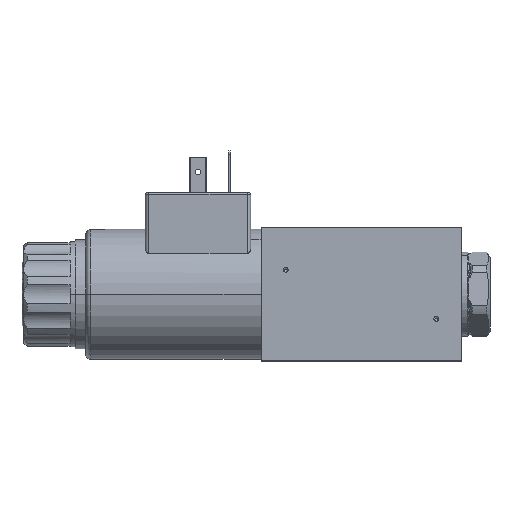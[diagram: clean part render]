
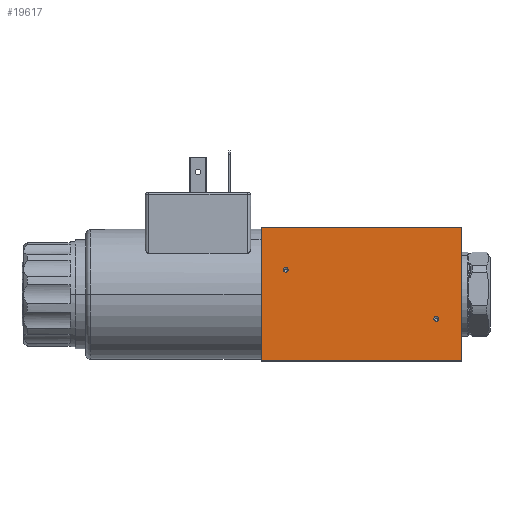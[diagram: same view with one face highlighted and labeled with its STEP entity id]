
A CAD part, top view. The second image highlights one B-rep face of the part: STEP entity #19617.
In plain terms, the highlighted planar face has unit normal (0, 0, 1).
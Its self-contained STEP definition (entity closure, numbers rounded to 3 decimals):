
#440 = AXIS2_PLACEMENT_3D ( 'NONE', #947, #10423, #13910 ) ;
#837 = FACE_BOUND ( 'NONE', #11433, .T. ) ;
#947 = CARTESIAN_POINT ( 'NONE',  ( 57.2, 19., 19. ) ) ;
#1201 = EDGE_CURVE ( 'NONE', #57455, #18951, #56924, .T. ) ;
#2396 = LINE ( 'NONE', #36297, #37715 ) ;
#2737 = DIRECTION ( 'NONE',  ( 1., 0., 0. ) ) ;
#4099 = AXIS2_PLACEMENT_3D ( 'NONE', #11120, #43283, #15777 ) ;
#4993 = ORIENTED_EDGE ( 'NONE', *, *, #56035, .F. ) ;
#6214 = EDGE_CURVE ( 'NONE', #19153, #47670, #31350, .T. ) ;
#8699 = DIRECTION ( 'NONE',  ( 0., 1., 0. ) ) ;
#8766 = DIRECTION ( 'NONE',  ( 0., 0., 1. ) ) ;
#9204 = LINE ( 'NONE', #52334, #42981 ) ;
#9412 = EDGE_CURVE ( 'NONE', #58892, #57465, #23448, .T. ) ;
#10343 = EDGE_CURVE ( 'NONE', #57455, #42051, #23690, .T. ) ;
#10423 = DIRECTION ( 'NONE',  ( 0., 0., -1. ) ) ;
#11096 = DIRECTION ( 'NONE',  ( -1., 0., 0. ) ) ;
#11120 = CARTESIAN_POINT ( 'NONE',  ( 50., -7., 19. ) ) ;
#11419 = VECTOR ( 'NONE', #13969, 1000. ) ;
#11433 = EDGE_LOOP ( 'NONE', ( #24105, #39992 ) ) ;
#11602 = FACE_OUTER_BOUND ( 'NONE', #31904, .T. ) ;
#12312 = ORIENTED_EDGE ( 'NONE', *, *, #6214, .F. ) ;
#13338 = CARTESIAN_POINT ( 'NONE',  ( 7.7, 7., 19. ) ) ;
#13518 = CARTESIAN_POINT ( 'NONE',  ( 57.2, 19., 19. ) ) ;
#13910 = DIRECTION ( 'NONE',  ( 0., 1., 0. ) ) ;
#13969 = DIRECTION ( 'NONE',  ( 0., 1., 0. ) ) ;
#14940 = CARTESIAN_POINT ( 'NONE',  ( 50.7, -7., 19. ) ) ;
#15305 = EDGE_LOOP ( 'NONE', ( #12312, #49559 ) ) ;
#15777 = DIRECTION ( 'NONE',  ( 1., 0., 0. ) ) ;
#18480 = CARTESIAN_POINT ( 'NONE',  ( 7., 7., 19. ) ) ;
#18951 = VERTEX_POINT ( 'NONE', #58529 ) ;
#19153 = VERTEX_POINT ( 'NONE', #13338 ) ;
#19617 = ADVANCED_FACE ( 'NONE', ( #11602, #25284, #837 ), #47147, .F. ) ;
#20717 = ORIENTED_EDGE ( 'NONE', *, *, #10343, .T. ) ;
#23064 = DIRECTION ( 'NONE',  ( 1., 0., 0. ) ) ;
#23448 = CIRCLE ( 'NONE', #36655, 0.7 ) ;
#23690 = LINE ( 'NONE', #37110, #11419 ) ;
#23745 = CARTESIAN_POINT ( 'NONE',  ( 57.2, -19., 19. ) ) ;
#24105 = ORIENTED_EDGE ( 'NONE', *, *, #52807, .F. ) ;
#25284 = FACE_BOUND ( 'NONE', #15305, .T. ) ;
#26322 = CARTESIAN_POINT ( 'NONE',  ( 49.3, -7., 19. ) ) ;
#29823 = AXIS2_PLACEMENT_3D ( 'NONE', #40919, #8766, #36368 ) ;
#31006 = VECTOR ( 'NONE', #48059, 1000. ) ;
#31350 = CIRCLE ( 'NONE', #29823, 0.7 ) ;
#31904 = EDGE_LOOP ( 'NONE', ( #52177, #4993, #43718, #20717 ) ) ;
#35849 = EDGE_CURVE ( 'NONE', #47670, #19153, #43537, .T. ) ;
#36297 = CARTESIAN_POINT ( 'NONE',  ( 0., -19.707, 19. ) ) ;
#36368 = DIRECTION ( 'NONE',  ( 1., 0., 0. ) ) ;
#36655 = AXIS2_PLACEMENT_3D ( 'NONE', #39726, #38179, #2737 ) ;
#37110 = CARTESIAN_POINT ( 'NONE',  ( 57.2, -19.707, 19. ) ) ;
#37715 = VECTOR ( 'NONE', #8699, 1000. ) ;
#38179 = DIRECTION ( 'NONE',  ( 0., 0., 1. ) ) ;
#39726 = CARTESIAN_POINT ( 'NONE',  ( 50., -7., 19. ) ) ;
#39992 = ORIENTED_EDGE ( 'NONE', *, *, #9412, .F. ) ;
#40516 = VERTEX_POINT ( 'NONE', #41420 ) ;
#40919 = CARTESIAN_POINT ( 'NONE',  ( 7., 7., 19. ) ) ;
#41420 = CARTESIAN_POINT ( 'NONE',  ( 0., 19., 19. ) ) ;
#42051 = VERTEX_POINT ( 'NONE', #13518 ) ;
#42618 = CARTESIAN_POINT ( 'NONE',  ( 6.3, 7., 19. ) ) ;
#42981 = VECTOR ( 'NONE', #11096, 1000. ) ;
#43283 = DIRECTION ( 'NONE',  ( 0., 0., 1. ) ) ;
#43537 = CIRCLE ( 'NONE', #49876, 0.7 ) ;
#43630 = CARTESIAN_POINT ( 'NONE',  ( 57.907, -19., 19. ) ) ;
#43718 = ORIENTED_EDGE ( 'NONE', *, *, #1201, .F. ) ;
#47147 = PLANE ( 'NONE',  #440 ) ;
#47670 = VERTEX_POINT ( 'NONE', #42618 ) ;
#48059 = DIRECTION ( 'NONE',  ( -1., 0., 0. ) ) ;
#49559 = ORIENTED_EDGE ( 'NONE', *, *, #35849, .F. ) ;
#49876 = AXIS2_PLACEMENT_3D ( 'NONE', #18480, #50620, #23064 ) ;
#50620 = DIRECTION ( 'NONE',  ( 0., 0., 1. ) ) ;
#52177 = ORIENTED_EDGE ( 'NONE', *, *, #54774, .T. ) ;
#52334 = CARTESIAN_POINT ( 'NONE',  ( 57.907, 19., 19. ) ) ;
#52807 = EDGE_CURVE ( 'NONE', #57465, #58892, #57815, .T. ) ;
#54774 = EDGE_CURVE ( 'NONE', #42051, #40516, #9204, .T. ) ;
#56035 = EDGE_CURVE ( 'NONE', #18951, #40516, #2396, .T. ) ;
#56924 = LINE ( 'NONE', #43630, #31006 ) ;
#57455 = VERTEX_POINT ( 'NONE', #23745 ) ;
#57465 = VERTEX_POINT ( 'NONE', #14940 ) ;
#57815 = CIRCLE ( 'NONE', #4099, 0.7 ) ;
#58529 = CARTESIAN_POINT ( 'NONE',  ( 0., -19., 19. ) ) ;
#58892 = VERTEX_POINT ( 'NONE', #26322 ) ;
